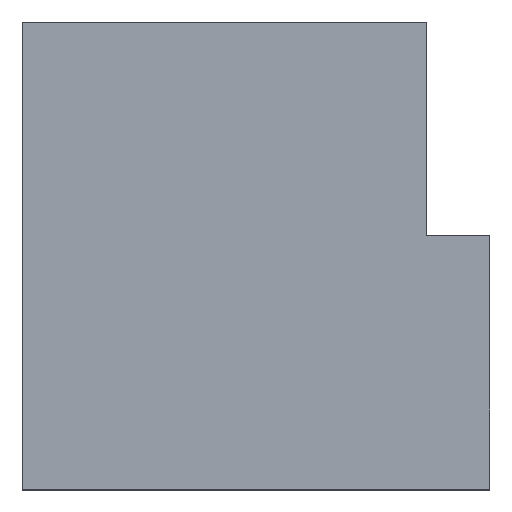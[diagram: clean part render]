
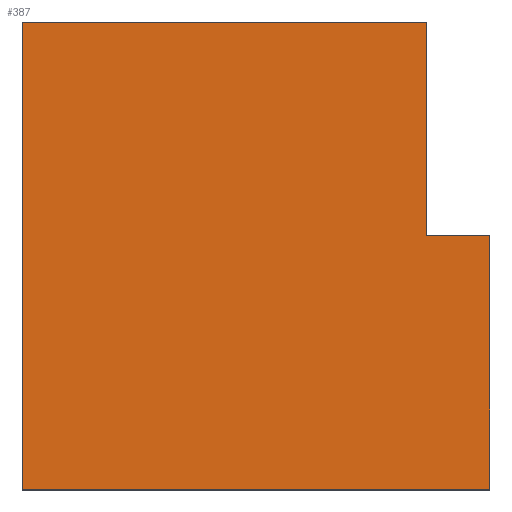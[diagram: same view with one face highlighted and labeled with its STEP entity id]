
A CAD part, top view. The second image highlights one B-rep face of the part: STEP entity #387.
In plain terms, the highlighted planar face has unit normal (0, 0, 1).
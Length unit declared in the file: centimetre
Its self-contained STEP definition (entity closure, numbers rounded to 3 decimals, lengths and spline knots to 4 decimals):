
#3 = CARTESIAN_POINT ( 'NONE',  ( 1000., 542.8065, 1000. ) ) ;
#43 = CARTESIAN_POINT ( 'NONE',  ( 865.0458, 542.8065, 1000. ) ) ;
#60 = DIRECTION ( 'NONE',  ( 1., 0., 0. ) ) ;
#67 = ORIENTED_EDGE ( 'NONE', *, *, #413, .F. ) ;
#87 = CARTESIAN_POINT ( 'NONE',  ( 0., 0., 1000. ) ) ;
#99 = CARTESIAN_POINT ( 'NONE',  ( 1000., 1000., 1000. ) ) ;
#157 = LINE ( 'NONE', #3, #237 ) ;
#161 = DIRECTION ( 'NONE',  ( 1., 0., 0. ) ) ;
#166 = CARTESIAN_POINT ( 'NONE',  ( 0., 1000., 1000. ) ) ;
#190 = DIRECTION ( 'NONE',  ( 1., 0., 0. ) ) ;
#206 = ORIENTED_EDGE ( 'NONE', *, *, #500, .T. ) ;
#237 = VECTOR ( 'NONE', #161, 100. ) ;
#245 = VERTEX_POINT ( 'NONE', #643 ) ;
#252 = CARTESIAN_POINT ( 'NONE',  ( 0., 0., 1000. ) ) ;
#263 = EDGE_CURVE ( 'NONE', #498, #464, #594, .T. ) ;
#268 = VECTOR ( 'NONE', #547, 100. ) ;
#287 = LINE ( 'NONE', #534, #515 ) ;
#307 = ORIENTED_EDGE ( 'NONE', *, *, #647, .T. ) ;
#308 = CARTESIAN_POINT ( 'NONE',  ( 1000., 542.8065, 1000. ) ) ;
#311 = FACE_OUTER_BOUND ( 'NONE', #555, .T. ) ;
#333 = CARTESIAN_POINT ( 'NONE',  ( 865.0458, 1000., 1000. ) ) ;
#336 = CARTESIAN_POINT ( 'NONE',  ( 1000., 0., 1000. ) ) ;
#387 = ADVANCED_FACE ( 'NONE', ( #311 ), #456, .T. ) ;
#399 = EDGE_CURVE ( 'NONE', #618, #417, #605, .T. ) ;
#413 = EDGE_CURVE ( 'NONE', #498, #417, #157, .T. ) ;
#417 = VERTEX_POINT ( 'NONE', #308 ) ;
#421 = VECTOR ( 'NONE', #190, 100. ) ;
#452 = DIRECTION ( 'NONE',  ( 0., 0., 1. ) ) ;
#456 = PLANE ( 'NONE',  #621 ) ;
#464 = VERTEX_POINT ( 'NONE', #333 ) ;
#466 = ORIENTED_EDGE ( 'NONE', *, *, #263, .T. ) ;
#475 = VERTEX_POINT ( 'NONE', #87 ) ;
#498 = VERTEX_POINT ( 'NONE', #43 ) ;
#500 = EDGE_CURVE ( 'NONE', #475, #618, #541, .T. ) ;
#514 = EDGE_CURVE ( 'NONE', #245, #475, #287, .T. ) ;
#515 = VECTOR ( 'NONE', #544, 100. ) ;
#524 = ORIENTED_EDGE ( 'NONE', *, *, #514, .T. ) ;
#525 = VECTOR ( 'NONE', #587, 100. ) ;
#534 = CARTESIAN_POINT ( 'NONE',  ( 0., 1000., 1000. ) ) ;
#541 = LINE ( 'NONE', #641, #421 ) ;
#544 = DIRECTION ( 'NONE',  ( 0., -1., 0. ) ) ;
#547 = DIRECTION ( 'NONE',  ( -1., 0., 0. ) ) ;
#554 = LINE ( 'NONE', #166, #268 ) ;
#555 = EDGE_LOOP ( 'NONE', ( #466, #307, #524, #206, #617, #67 ) ) ;
#566 = VECTOR ( 'NONE', #608, 100. ) ;
#587 = DIRECTION ( 'NONE',  ( 0., 1., 0. ) ) ;
#590 = CARTESIAN_POINT ( 'NONE',  ( 865.0458, 542.8065, 1000. ) ) ;
#594 = LINE ( 'NONE', #590, #525 ) ;
#605 = LINE ( 'NONE', #99, #566 ) ;
#608 = DIRECTION ( 'NONE',  ( 0., 1., 0. ) ) ;
#617 = ORIENTED_EDGE ( 'NONE', *, *, #399, .T. ) ;
#618 = VERTEX_POINT ( 'NONE', #336 ) ;
#621 = AXIS2_PLACEMENT_3D ( 'NONE', #252, #452, #60 ) ;
#641 = CARTESIAN_POINT ( 'NONE',  ( 0., 0., 1000. ) ) ;
#643 = CARTESIAN_POINT ( 'NONE',  ( 0., 1000., 1000. ) ) ;
#647 = EDGE_CURVE ( 'NONE', #464, #245, #554, .T. ) ;
